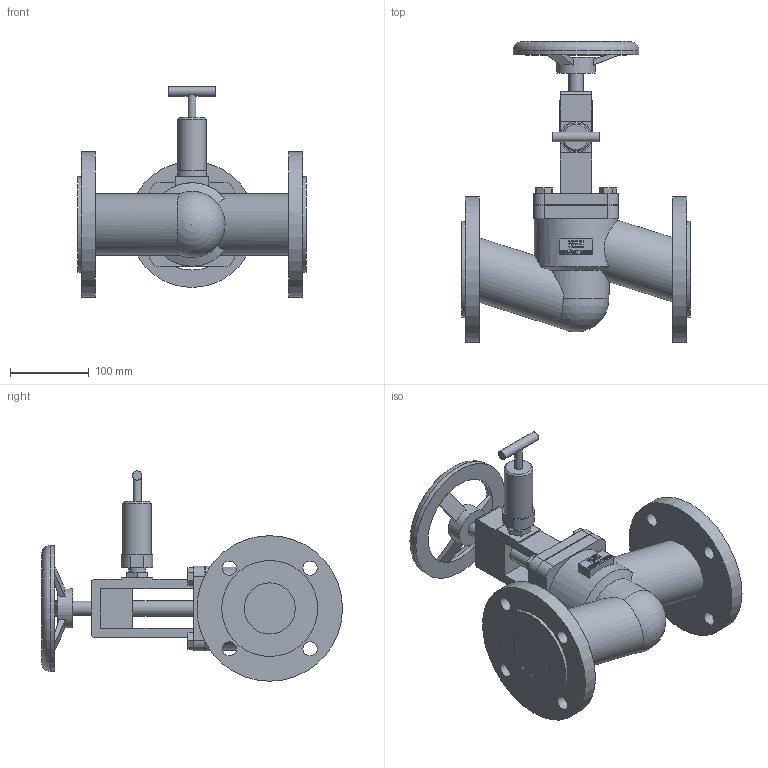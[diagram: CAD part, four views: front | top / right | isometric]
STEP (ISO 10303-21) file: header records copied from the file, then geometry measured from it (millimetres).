
FILE_DESCRIPTION(/* description */ (''),/* implementation_level */ '2;1');
FILE_NAME(/* name */ '100-247HP-DN65-PN16.stp',/* time_stamp */ '2024-07-08T21:50:56+02:00',/* author */ ('roger.thijssen'),/* organization */ (''),/* preprocessor_version */ 'ST-DEVELOPER v20',/* originating_system */ 'Autodesk Inventor 2024',/* authorisation */ '');
FILE_SCHEMA (('AUTOMOTIVE_DESIGN { 1 0 10303 214 3 1 1 }'));
Length unit declared in the file: millimetre
Products named in the file (1): 100-247HP-DN65-PN16
Bounding box: 290 x 382.5 x 267.5 mm (x, y, z)
Volume: 3697249 mm3; surface area: 336167.9 mm2
Topology: 1 solids, 1 shells, 369 faces, 969 edges, 644 vertices
Faces by surface type: plane 236, bspline 75, cylinder 53, cone 3, torus 1, sphere 1
Full cylindrical faces by diameter (mm): 10 x1, 12 x1, 18 x9, 20 x1, 21 x1, 36 x1, 49.55 x1, 65 x2, 78 x2, 95 x1, 106 x1, 116 x1, 122 x2, 160 x1, 185 x2
Entity records: 12616 total; most frequent: CARTESIAN_POINT 3397, ORIENTED_EDGE 1936, DIRECTION 1522, EDGE_CURVE 968, LINE 672, VECTOR 672, VERTEX_POINT 644, EDGE_LOOP 438
